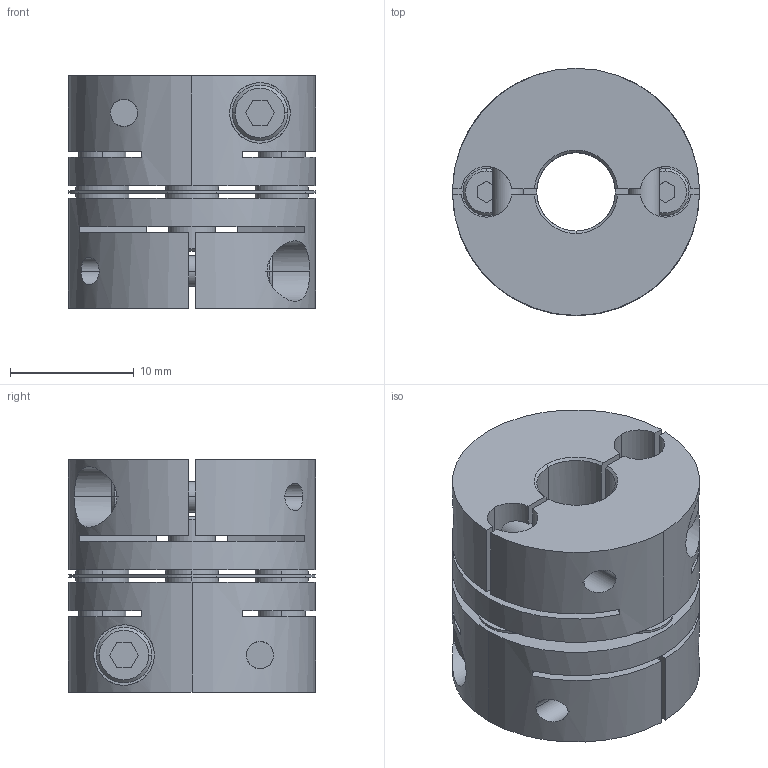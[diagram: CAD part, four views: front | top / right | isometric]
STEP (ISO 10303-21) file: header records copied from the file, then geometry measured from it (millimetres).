
FILE_DESCRIPTION((''),'2;1');
FILE_NAME('LAS-20C-6.35×8.stp','2014-02-05T09:33:28',(''),(''),'AutoCAD STEP 2000i','AutoCAD 2000i',', , ');
FILE_SCHEMA(('CONFIG_CONTROL_DESIGN'));
Length unit declared in the file: millimetre
Products named in the file (5): LAS-20C-4×4; 忣兜1; LA-2002-D04-1; LA-2002-D04; LAS20-ITA
Assembly tree (4 placements, depth 2):
  LAS-20C-4×4
    忣兜1
    LA-2002-D04-1
    LA-2002-D04
    LAS20-ITA
Bounding box: 20 x 20 x 18.8 mm (x, y, z)
Volume: 4301.3 mm3; surface area: 4478.3 mm2
Topology: 1 solids, 1 shells, 236 faces, 624 edges, 408 vertices
Faces by surface type: plane 112, cylinder 96, cone 28
Entity records: 8203 total; most frequent: CARTESIAN_POINT 2009, DIRECTION 1302, ORIENTED_EDGE 1248, EDGE_CURVE 624, AXIS2_PLACEMENT_3D 477, VERTEX_POINT 408, VECTOR 348, LINE 348
